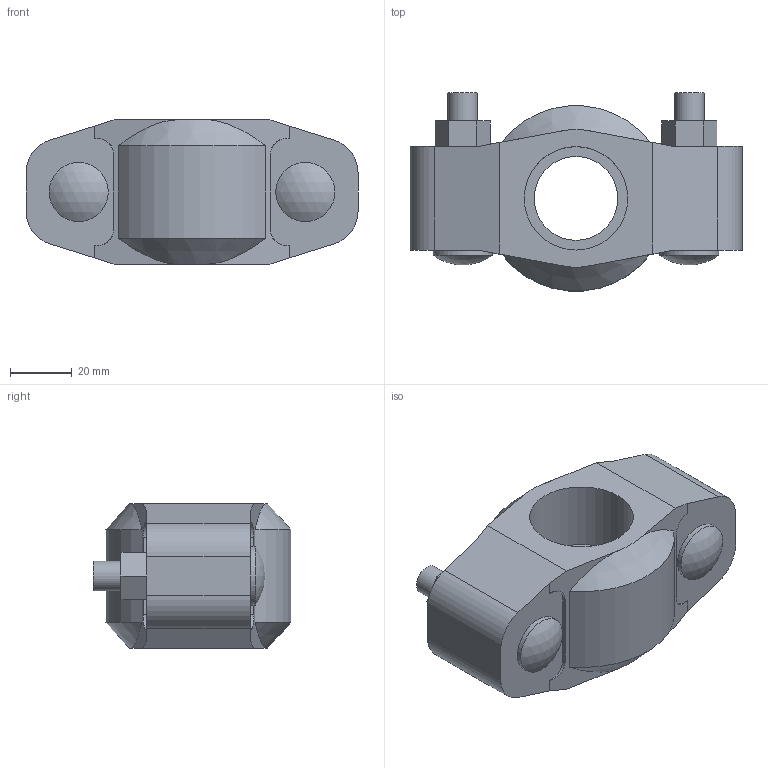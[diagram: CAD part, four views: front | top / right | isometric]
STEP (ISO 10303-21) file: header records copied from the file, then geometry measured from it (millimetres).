
FILE_DESCRIPTION(/* description */ ('VIC COUPLING STYLE 07 RIGID','CAx-IF Rec.Pracs.---Representation and Presentation of Product Manufacturing Information (PMI)---4.0---2014-10-13'),/* implementation_level */ '2;1');
FILE_NAME(/* name */ 'C:\Users\kkamble\Desktop\KIRAN\2022\Updated Couplings\007\Victaulic_IPS_Coupling Rigid_Style 07 (OGS)\Victaulic_IPS_Coupling Rigid_Style 07 (OGS)_1 (25).stp',/* time_stamp */ '2022-03-25T09:55:55+05:00',/* author */ ('jheald'),/* organization */ ('Victaulic'),/* preprocessor_version */ 'ST-DEVELOPER v17.2',/* originating_system */ 'Autodesk Inventor 2019',/* authorisation */ '');
FILE_SCHEMA (('AP242_MANAGED_MODEL_BASED_3D_ENGINEERING_MIM_LF { 1 0 10303 442 1 1 4 }'));
Length unit declared in the file: inch
Products named in the file (1): 07-01.0
Bounding box: 107.19 x 63.9 x 46.74 mm (x, y, z)
Volume: 147517.1 mm3; surface area: 30481 mm2
Topology: 1 solids, 3 shells, 87 faces, 235 edges, 158 vertices
Faces by surface type: plane 54, cylinder 27, cone 4, sphere 2
Full cylindrical faces by diameter (mm): 9.525 x4, 19.05 x2, 27.051 x1, 33.401 x2
Entity records: 2996 total; most frequent: CARTESIAN_POINT 514, DIRECTION 499, ORIENTED_EDGE 470, EDGE_CURVE 235, AXIS2_PLACEMENT_3D 171, VERTEX_POINT 158, LINE 157, VECTOR 157
